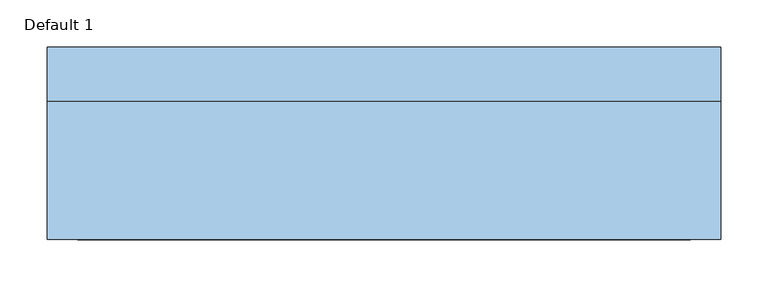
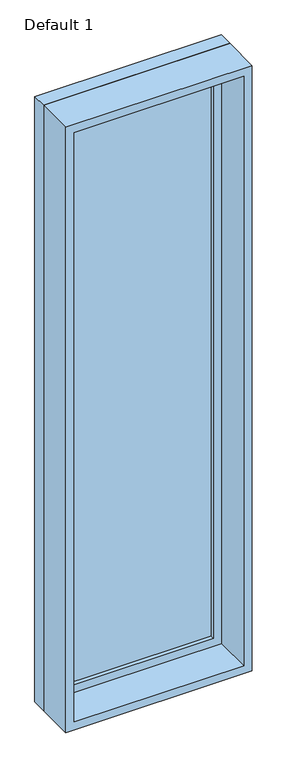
"""IFC4 building model written with IfcOpenShell, lengths in millimetres: window geometry, Planitar-Fixed : Default 1."""

from ifc_helpers import new_model, si_unit, frame, origin, place, context, project, spatial, polyline, outline, extrude, source, transform, mapped, element, save


def default_1_9d9d8e98(model_context):
    return source(origin(), model_context, "Body", "SweptSolid", [
        extrude(outline(polyline([(3333.8, -336.6), (933.4, -336.6), (933.4, 336.6), (3333.8, 336.6), (3333.8, -336.6)]), holes=[polyline([(3289.8, -292.6), (3289.8, 292.6), (977.4, 292.6), (977.4, -292.6), (3289.8, -292.6)])]), frame((0.0, 57.9, 0.0), z_axis=(0.0, 1.0, 0.0), x_axis=(0.0, 0.0, 1.0)), (0.0, 0.0, 1.0), 44.0),
        extrude(outline(polyline([(3352.8, -355.6), (914.4, -355.6), (914.4, 355.6), (3352.8, 355.6), (3352.8, -355.6)]), holes=[polyline([(3333.8, -336.6), (3333.8, 336.6), (933.4, 336.6), (933.4, -336.6), (3333.8, -336.6)])]), frame((0.0, 57.9, 0.0), z_axis=(0.0, 1.0, 0.0), x_axis=(0.0, 0.0, 1.0)), (0.0, 0.0, 1.0), 56.7),
        extrude(outline(polyline([(3352.8, -355.6), (914.4, -355.6), (914.4, 355.6), (3352.8, 355.6), (3352.8, -355.6)]), holes=[polyline([(3320.8, -323.6), (3320.8, 323.6), (946.4, 323.6), (946.4, -323.6), (3320.8, -323.6)])]), frame((0.0, -88.6, 0.0), z_axis=(0.0, 1.0, 0.0), x_axis=(0.0, 0.0, 1.0)), (0.0, 0.0, 1.0), 146.5),
        extrude(outline(polyline([(-292.6, 85.9), (292.6, 85.9), (292.6, 73.9), (-292.6, 73.9), (-292.6, 85.9)])), frame((0.0, 0.0, 977.4), z_axis=(0.0, 0.0, 1.0), x_axis=(1.0, 0.0, 0.0)), (0.0, 0.0, 1.0), 2312.4),
    ])


if __name__ == "__main__":
    model = new_model("IFC4")
    model_context = context("Model", 3, world=origin())
    ifc_project = project(units=[si_unit("LENGTHUNIT", "METRE", prefix="MILLI")], contexts=[model_context])
    site = spatial("IfcSite", under=ifc_project)
    building = spatial("IfcBuilding", under=site)
    placement = place(None, origin())
    default_1_shape = default_1_9d9d8e98(model_context)
    element("IfcWindow", 1, ObjectType="Planitar-Fixed : Default 1", at=placement, inside=building, context=model_context, shape_type="MappedRepresentation", body=[
        mapped(default_1_shape, transform((0.0, 0.0, 0.0), x_axis=(1.0, 0.0, 0.0), y_axis=(0.0, 1.0, 0.0), z_axis=(0.0, 0.0, 1.0))),
    ])
    save(model, "model.ifc")
